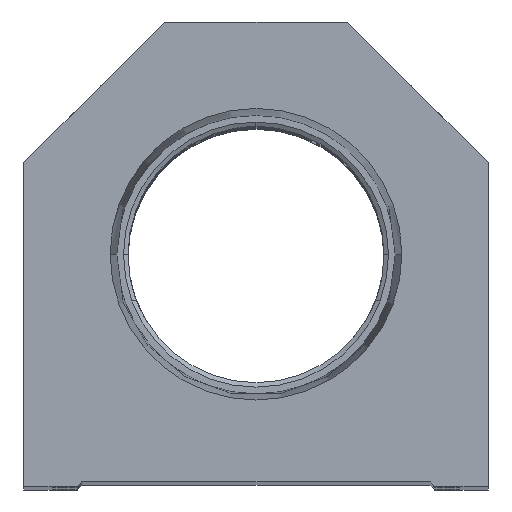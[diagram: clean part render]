
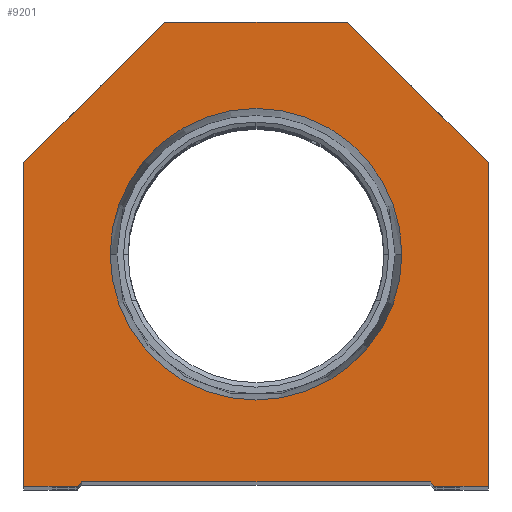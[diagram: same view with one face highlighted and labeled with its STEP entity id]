
A CAD part, top view. The second image highlights one B-rep face of the part: STEP entity #9201.
In plain terms, the highlighted planar face has unit normal (0, 0, 1).
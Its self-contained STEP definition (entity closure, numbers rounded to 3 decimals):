
#935 = VERTEX_POINT ( 'NONE', #22277 ) ;
#1092 = FACE_OUTER_BOUND ( 'NONE', #16272, .T. ) ;
#1334 = DIRECTION ( 'NONE',  ( 1., 0., 0. ) ) ;
#1435 = EDGE_CURVE ( 'NONE', #18359, #9765, #14559, .T. ) ;
#1696 = EDGE_CURVE ( 'NONE', #10798, #3404, #5672, .T. ) ;
#1905 = ORIENTED_EDGE ( 'NONE', *, *, #7589, .T. ) ;
#2681 = VECTOR ( 'NONE', #1334, 1000. ) ;
#2951 = LINE ( 'NONE', #14701, #2681 ) ;
#2979 = DIRECTION ( 'NONE',  ( 1., 0., 0. ) ) ;
#3046 = VERTEX_POINT ( 'NONE', #16602 ) ;
#3404 = VERTEX_POINT ( 'NONE', #9309 ) ;
#3479 = DIRECTION ( 'NONE',  ( 1., 0., 0. ) ) ;
#3951 = EDGE_LOOP ( 'NONE', ( #17138, #20419 ) ) ;
#4172 = DIRECTION ( 'NONE',  ( -1., 0., 0. ) ) ;
#4293 = CARTESIAN_POINT ( 'NONE',  ( -19.05, 0.5, 0. ) ) ;
#4392 = AXIS2_PLACEMENT_3D ( 'NONE', #24630, #14955, #3479 ) ;
#5086 = CARTESIAN_POINT ( 'NONE',  ( -25.4, 35.4, 0. ) ) ;
#5110 = DIRECTION ( 'NONE',  ( 1., 0., 0. ) ) ;
#5116 = CARTESIAN_POINT ( 'NONE',  ( -19.05, 0., 0. ) ) ;
#5182 = CARTESIAN_POINT ( 'NONE',  ( 25.4, 0., 0. ) ) ;
#5239 = LINE ( 'NONE', #18734, #6182 ) ;
#5535 = CARTESIAN_POINT ( 'NONE',  ( -25.4, 0., 0. ) ) ;
#5672 = CIRCLE ( 'NONE', #13683, 15.947 ) ;
#6182 = VECTOR ( 'NONE', #17102, 1000. ) ;
#6342 = CARTESIAN_POINT ( 'NONE',  ( 9.775, 9.775, 0. ) ) ;
#6697 = VERTEX_POINT ( 'NONE', #5535 ) ;
#7041 = LINE ( 'NONE', #5182, #9833 ) ;
#7127 = CARTESIAN_POINT ( 'NONE',  ( -10., 50.8, 0. ) ) ;
#7424 = LINE ( 'NONE', #17194, #17801 ) ;
#7589 = EDGE_CURVE ( 'NONE', #935, #18359, #7424, .T. ) ;
#7620 = DIRECTION ( 'NONE',  ( -0.707, 0.707, 0. ) ) ;
#8380 = CARTESIAN_POINT ( 'NONE',  ( 15.947, 25.4, 0. ) ) ;
#8842 = LINE ( 'NONE', #21990, #17561 ) ;
#8938 = FACE_BOUND ( 'NONE', #3951, .T. ) ;
#9157 = ORIENTED_EDGE ( 'NONE', *, *, #15879, .T. ) ;
#9160 = ORIENTED_EDGE ( 'NONE', *, *, #19119, .T. ) ;
#9201 = ADVANCED_FACE ( 'NONE', ( #8938, #1092 ), #12703, .T. ) ;
#9309 = CARTESIAN_POINT ( 'NONE',  ( -15.947, 25.4, 0. ) ) ;
#9765 = VERTEX_POINT ( 'NONE', #22037 ) ;
#9833 = VECTOR ( 'NONE', #13032, 1000. ) ;
#10062 = ORIENTED_EDGE ( 'NONE', *, *, #17519, .T. ) ;
#10421 = CARTESIAN_POINT ( 'NONE',  ( 0., 25.4, 0. ) ) ;
#10798 = VERTEX_POINT ( 'NONE', #8380 ) ;
#11030 = AXIS2_PLACEMENT_3D ( 'NONE', #20343, #16577, #20467 ) ;
#11095 = CARTESIAN_POINT ( 'NONE',  ( 25.4, 35.4, 0. ) ) ;
#11364 = CARTESIAN_POINT ( 'NONE',  ( 25.4, 35.4, 0. ) ) ;
#11447 = EDGE_CURVE ( 'NONE', #15262, #935, #15725, .T. ) ;
#12203 = VECTOR ( 'NONE', #2979, 1000. ) ;
#12687 = CARTESIAN_POINT ( 'NONE',  ( -19.55, 0., 0. ) ) ;
#12703 = PLANE ( 'NONE',  #11030 ) ;
#13032 = DIRECTION ( 'NONE',  ( 0., 1., 0. ) ) ;
#13420 = ORIENTED_EDGE ( 'NONE', *, *, #15973, .T. ) ;
#13622 = CARTESIAN_POINT ( 'NONE',  ( -25.4, 0., 0. ) ) ;
#13683 = AXIS2_PLACEMENT_3D ( 'NONE', #10421, #23719, #18067 ) ;
#13861 = LINE ( 'NONE', #13622, #14262 ) ;
#13915 = CARTESIAN_POINT ( 'NONE',  ( 25.4, 0., 0. ) ) ;
#14262 = VECTOR ( 'NONE', #21260, 1000. ) ;
#14559 = LINE ( 'NONE', #5086, #22243 ) ;
#14701 = CARTESIAN_POINT ( 'NONE',  ( 19.05, 0., 0. ) ) ;
#14742 = CIRCLE ( 'NONE', #4392, 15.947 ) ;
#14955 = DIRECTION ( 'NONE',  ( 0., 0., 1. ) ) ;
#15262 = VERTEX_POINT ( 'NONE', #11095 ) ;
#15582 = LINE ( 'NONE', #6342, #22559 ) ;
#15725 = LINE ( 'NONE', #11364, #20582 ) ;
#15819 = DIRECTION ( 'NONE',  ( 0.707, -0.707, 0. ) ) ;
#15879 = EDGE_CURVE ( 'NONE', #19521, #21284, #5239, .T. ) ;
#15973 = EDGE_CURVE ( 'NONE', #3046, #21078, #15582, .T. ) ;
#16272 = EDGE_LOOP ( 'NONE', ( #18470, #9157, #9160, #13420, #16370, #23993, #19939, #1905, #20124, #10062 ) ) ;
#16370 = ORIENTED_EDGE ( 'NONE', *, *, #23634, .T. ) ;
#16577 = DIRECTION ( 'NONE',  ( 0., 0., 1. ) ) ;
#16602 = CARTESIAN_POINT ( 'NONE',  ( 19.05, 0.5, 0. ) ) ;
#17102 = DIRECTION ( 'NONE',  ( 0.707, 0.707, 0. ) ) ;
#17138 = ORIENTED_EDGE ( 'NONE', *, *, #1696, .F. ) ;
#17194 = CARTESIAN_POINT ( 'NONE',  ( 10., 50.8, 0. ) ) ;
#17519 = EDGE_CURVE ( 'NONE', #9765, #6697, #13861, .T. ) ;
#17561 = VECTOR ( 'NONE', #5110, 1000. ) ;
#17801 = VECTOR ( 'NONE', #4172, 1000. ) ;
#18067 = DIRECTION ( 'NONE',  ( 1., 0., 0. ) ) ;
#18359 = VERTEX_POINT ( 'NONE', #7127 ) ;
#18463 = DIRECTION ( 'NONE',  ( -0.707, -0.707, 0. ) ) ;
#18470 = ORIENTED_EDGE ( 'NONE', *, *, #22574, .T. ) ;
#18688 = CARTESIAN_POINT ( 'NONE',  ( 19.55, 0., 0. ) ) ;
#18734 = CARTESIAN_POINT ( 'NONE',  ( -9.775, 9.775, 0. ) ) ;
#19119 = EDGE_CURVE ( 'NONE', #21284, #3046, #8842, .T. ) ;
#19217 = EDGE_CURVE ( 'NONE', #3404, #10798, #14742, .T. ) ;
#19521 = VERTEX_POINT ( 'NONE', #12687 ) ;
#19939 = ORIENTED_EDGE ( 'NONE', *, *, #11447, .T. ) ;
#20124 = ORIENTED_EDGE ( 'NONE', *, *, #1435, .T. ) ;
#20343 = CARTESIAN_POINT ( 'NONE',  ( 0., 0., 0. ) ) ;
#20419 = ORIENTED_EDGE ( 'NONE', *, *, #19217, .F. ) ;
#20467 = DIRECTION ( 'NONE',  ( 1., 0., 0. ) ) ;
#20582 = VECTOR ( 'NONE', #7620, 1000. ) ;
#21078 = VERTEX_POINT ( 'NONE', #18688 ) ;
#21260 = DIRECTION ( 'NONE',  ( 0., -1., 0. ) ) ;
#21271 = VERTEX_POINT ( 'NONE', #13915 ) ;
#21284 = VERTEX_POINT ( 'NONE', #4293 ) ;
#21990 = CARTESIAN_POINT ( 'NONE',  ( -19.05, 0.5, 0. ) ) ;
#22037 = CARTESIAN_POINT ( 'NONE',  ( -25.4, 35.4, 0. ) ) ;
#22068 = EDGE_CURVE ( 'NONE', #21271, #15262, #7041, .T. ) ;
#22243 = VECTOR ( 'NONE', #18463, 1000. ) ;
#22277 = CARTESIAN_POINT ( 'NONE',  ( 10., 50.8, 0. ) ) ;
#22559 = VECTOR ( 'NONE', #15819, 1000. ) ;
#22574 = EDGE_CURVE ( 'NONE', #6697, #19521, #24141, .T. ) ;
#23634 = EDGE_CURVE ( 'NONE', #21078, #21271, #2951, .T. ) ;
#23719 = DIRECTION ( 'NONE',  ( 0., 0., 1. ) ) ;
#23993 = ORIENTED_EDGE ( 'NONE', *, *, #22068, .T. ) ;
#24141 = LINE ( 'NONE', #5116, #12203 ) ;
#24630 = CARTESIAN_POINT ( 'NONE',  ( 0., 25.4, 0. ) ) ;
